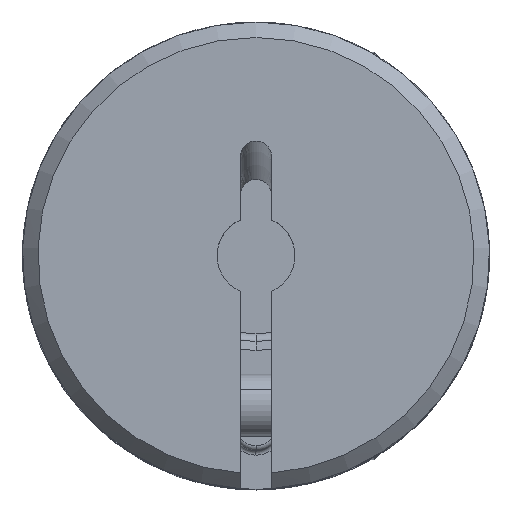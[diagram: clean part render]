
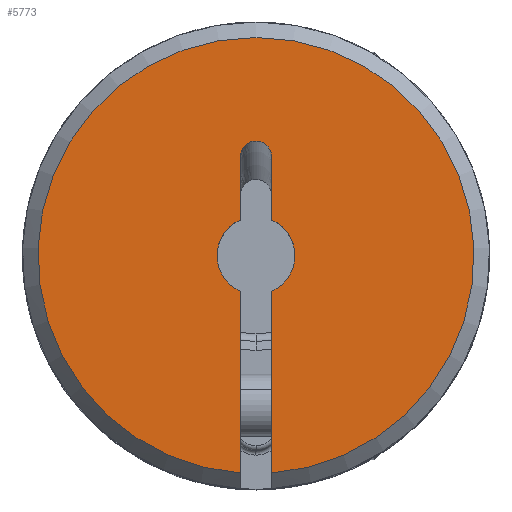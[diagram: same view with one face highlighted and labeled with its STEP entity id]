
A CAD part, top view. The second image highlights one B-rep face of the part: STEP entity #5773.
In plain terms, the highlighted planar face has unit normal (0, 0, 1).
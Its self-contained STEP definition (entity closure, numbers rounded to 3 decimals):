
#58=CARTESIAN_POINT('',(0.,0.,16.));
#59=DIRECTION('',(0.,0.,-1.));
#60=DIRECTION('',(0.4,0.917,0.));
#61=AXIS2_PLACEMENT_3D('',#58,#59,#60);
#63=DIRECTION('',(0.,1.,0.));
#64=VECTOR('',#63,4.051);
#65=CARTESIAN_POINT('',(1.,2.291,16.));
#66=LINE('',#65,#64);
#67=CARTESIAN_POINT('',(1.,6.343,16.));
#68=CARTESIAN_POINT('',(1.,6.403,16.));
#69=CARTESIAN_POINT('',(0.99,6.521,16.));
#70=CARTESIAN_POINT('',(0.944,6.693,16.));
#71=CARTESIAN_POINT('',(0.869,6.855,16.));
#72=CARTESIAN_POINT('',(0.767,7.,16.));
#73=CARTESIAN_POINT('',(0.643,7.125,16.));
#74=CARTESIAN_POINT('',(0.5,7.226,16.));
#75=CARTESIAN_POINT('',(0.341,7.3,16.));
#76=CARTESIAN_POINT('',(0.173,7.346,16.));
#77=CARTESIAN_POINT('',(0.,7.361,16.));
#78=CARTESIAN_POINT('',(-0.173,7.346,16.));
#79=CARTESIAN_POINT('',(-0.341,7.3,16.));
#80=CARTESIAN_POINT('',(-0.5,7.226,16.));
#81=CARTESIAN_POINT('',(-0.643,7.125,16.));
#82=CARTESIAN_POINT('',(-0.767,7.,16.));
#83=CARTESIAN_POINT('',(-0.869,6.855,16.));
#84=CARTESIAN_POINT('',(-0.944,6.693,16.));
#85=CARTESIAN_POINT('',(-0.99,6.521,16.));
#86=CARTESIAN_POINT('',(-1.,6.403,16.));
#87=CARTESIAN_POINT('',(-1.,6.343,16.));
#89=DIRECTION('',(0.,1.,0.));
#90=VECTOR('',#89,4.051);
#91=CARTESIAN_POINT('',(-1.,2.291,16.));
#92=LINE('',#91,#90);
#93=CARTESIAN_POINT('',(0.,0.,16.));
#94=DIRECTION('',(0.,0.,-1.));
#95=DIRECTION('',(-0.4,-0.917,0.));
#96=AXIS2_PLACEMENT_3D('',#93,#94,#95);
#98=DIRECTION('',(0.,1.,0.));
#99=VECTOR('',#98,11.673);
#100=CARTESIAN_POINT('',(-1.,-13.964,16.));
#101=LINE('',#100,#99);
#102=DIRECTION('',(0.,1.,0.));
#103=VECTOR('',#102,11.673);
#104=CARTESIAN_POINT('',(1.,-13.964,16.));
#105=LINE('',#104,#103);
#133=CARTESIAN_POINT('',(1.,-13.964,16.));
#140=CARTESIAN_POINT('',(0.,0.,16.));
#141=DIRECTION('',(0.,0.,1.));
#142=DIRECTION('',(0.071,-0.997,0.));
#143=AXIS2_PLACEMENT_3D('',#140,#141,#142);
#150=CARTESIAN_POINT('',(-1.,-13.964,16.));
#4782=VERTEX_POINT('',#150);
#4783=VERTEX_POINT('',#133);
#4831=CARTESIAN_POINT('',(1.,6.343,16.));
#4833=VERTEX_POINT('',#4831);
#4834=CARTESIAN_POINT('',(-1.,6.343,16.));
#4836=VERTEX_POINT('',#4834);
#4842=CARTESIAN_POINT('',(1.,2.291,16.));
#4843=CARTESIAN_POINT('',(1.,-2.291,16.));
#4844=VERTEX_POINT('',#4842);
#4845=VERTEX_POINT('',#4843);
#4846=CARTESIAN_POINT('',(-1.,-2.291,16.));
#4847=CARTESIAN_POINT('',(-1.,2.291,16.));
#4848=VERTEX_POINT('',#4846);
#4849=VERTEX_POINT('',#4847);
#5750=CARTESIAN_POINT('',(0.,0.,16.));
#5751=DIRECTION('',(0.,0.,-1.));
#5752=DIRECTION('',(-1.,0.,0.));
#5753=AXIS2_PLACEMENT_3D('',#5750,#5751,#5752);
#5754=PLANE('',#5753);
#5756=ORIENTED_EDGE('',*,*,#5755,.F.);
#5758=ORIENTED_EDGE('',*,*,#5757,.T.);
#5760=ORIENTED_EDGE('',*,*,#5759,.T.);
#5762=ORIENTED_EDGE('',*,*,#5761,.F.);
#5764=ORIENTED_EDGE('',*,*,#5763,.F.);
#5766=ORIENTED_EDGE('',*,*,#5765,.F.);
#5768=ORIENTED_EDGE('',*,*,#5767,.F.);
#5770=ORIENTED_EDGE('',*,*,#5769,.T.);
#5771=EDGE_LOOP('',(#5756,#5758,#5760,#5762,#5764,#5766,#5768,#5770));
#5772=FACE_OUTER_BOUND('',#5771,.F.);
#5773=ADVANCED_FACE('',(#5772),#5754,.F.);
#62=CIRCLE('',#61,2.5);
#88=B_SPLINE_CURVE_WITH_KNOTS('',3,(#67,#68,#69,#70,#71,#72,#73,#74,#75,#76,#77,
#78,#79,#80,#81,#82,#83,#84,#85,#86,#87),.UNSPECIFIED.,.F.,.F.,(4,1,1,1,1,1,1,1,
1,1,1,1,1,1,1,1,1,1,4),(0.,0.056,0.111,
0.167,0.222,0.278,0.333,
0.389,0.444,0.5,0.556,0.611,
0.667,0.722,0.778,0.833,
0.889,0.944,1.),.UNSPECIFIED.);
#97=CIRCLE('',#96,2.5);
#144=CIRCLE('',#143,14.);
#5755=EDGE_CURVE('',#4844,#4845,#62,.T.);
#5757=EDGE_CURVE('',#4844,#4833,#66,.T.);
#5759=EDGE_CURVE('',#4833,#4836,#88,.T.);
#5761=EDGE_CURVE('',#4849,#4836,#92,.T.);
#5763=EDGE_CURVE('',#4848,#4849,#97,.T.);
#5765=EDGE_CURVE('',#4782,#4848,#101,.T.);
#5767=EDGE_CURVE('',#4783,#4782,#144,.T.);
#5769=EDGE_CURVE('',#4783,#4845,#105,.T.);
